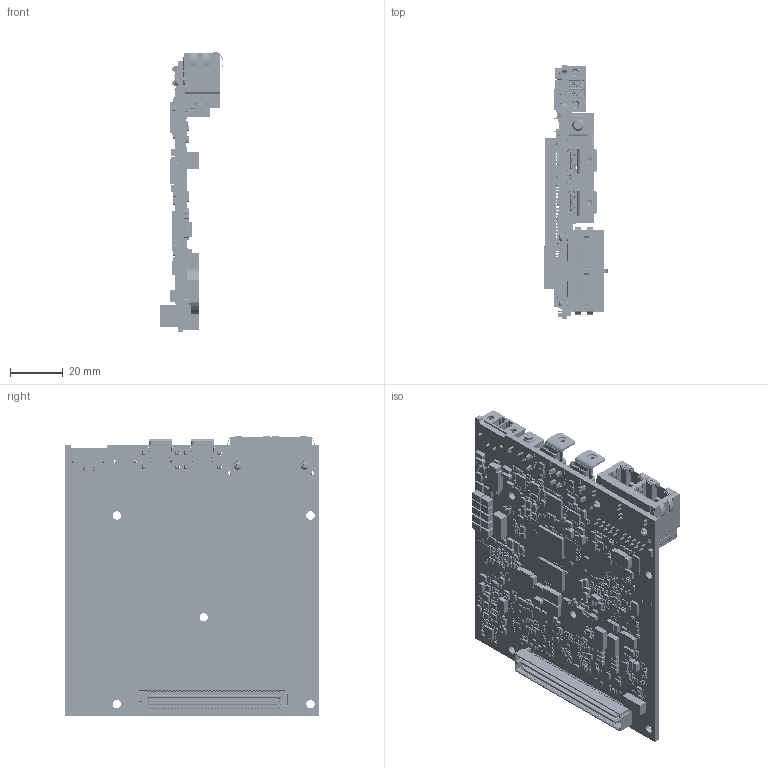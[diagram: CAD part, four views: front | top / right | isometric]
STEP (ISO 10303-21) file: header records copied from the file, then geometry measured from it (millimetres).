
FILE_DESCRIPTION((''),'2;1');
FILE_NAME('CU_SBRIO-9603','2019-10-07T',('dkendric'),(''),'CREO PARAMETRIC BY PTC INC, 2017480','CREO PARAMETRIC BY PTC INC, 2017480','');
FILE_SCHEMA(('AUTOMOTIVE_DESIGN { 1 0 10303 214 1 1 1 1 }'));
Products named in the file (1): CU_SBRIO-9603
Bounding box: 23.96 x 96.52 x 106.41 mm (x, y, z)
Volume: 41242.9 mm3; surface area: 44491 mm2
Topology: 1 solids, 7 shells, 16913 faces, 46580 edges, 30558 vertices
Faces by surface type: plane 14692, cylinder 1802, cone 136, bspline 120, torus 85, sphere 50, extrusion 28
Entity records: 599922 total; most frequent: CARTESIAN_POINT 110816, ORIENTED_EDGE 93052, DIRECTION 83459, EDGE_CURVE 46526, VECTOR 41683, LINE 41655, VERTEX_POINT 30558, AXIS2_PLACEMENT_3D 20888
